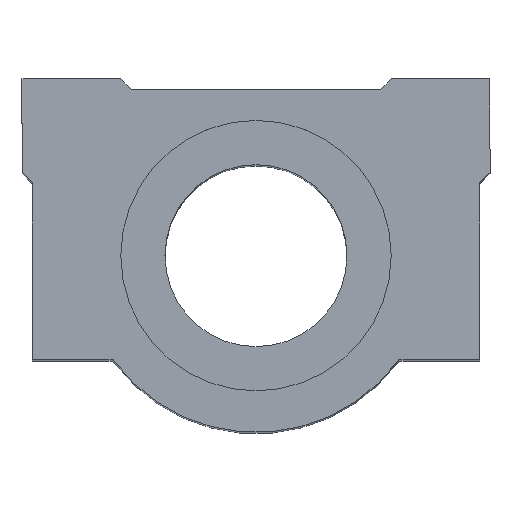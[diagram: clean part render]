
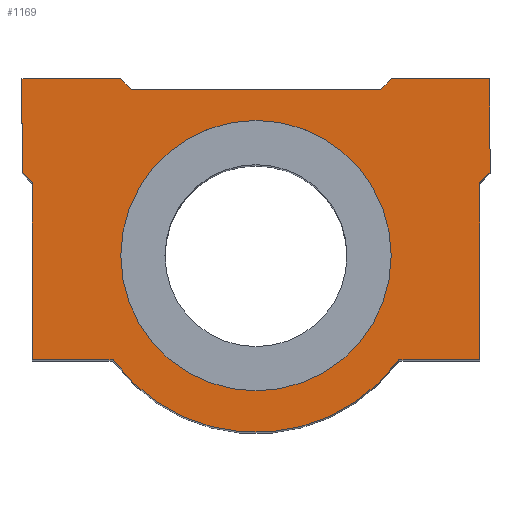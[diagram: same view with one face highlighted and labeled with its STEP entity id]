
A CAD part, top view. The second image highlights one B-rep face of the part: STEP entity #1169.
In plain terms, the highlighted planar face has unit normal (0, 0, 1).
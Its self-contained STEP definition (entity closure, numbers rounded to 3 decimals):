
#91=CARTESIAN_POINT('',(-26.709,4.198,153.0));
#92=VERTEX_POINT('',#91);
#101=CARTESIAN_POINT('',(25.291,4.198,153.0));
#102=VERTEX_POINT('',#101);
#103=CARTESIAN_POINT('',(-0.709,4.198,153.0));
#104=DIRECTION('',(0.0,0.0,-1.0));
#105=DIRECTION('',(-1.0,0.0,0.0));
#106=AXIS2_PLACEMENT_3D('',#103,#104,#105);
#107=CIRCLE('',#106,26.0);
#108=EDGE_CURVE('',#102,#92,#107,.T.);
#640=CARTESIAN_POINT('',(-0.709,4.198,153.0));
#641=DIRECTION('',(0.0,0.0,-1.0));
#642=DIRECTION('',(-1.0,0.0,0.0));
#643=AXIS2_PLACEMENT_3D('',#640,#641,#642);
#644=CIRCLE('',#643,26.0);
#645=EDGE_CURVE('',#92,#102,#644,.T.);
#780=CARTESIAN_POINT('',(44.291,20.198,153.0));
#781=VERTEX_POINT('',#780);
#782=CARTESIAN_POINT('',(42.291,18.198,153.0));
#783=VERTEX_POINT('',#782);
#784=CARTESIAN_POINT('',(44.291,20.198,153.0));
#785=DIRECTION('',(-0.707,-0.707,0.0));
#786=VECTOR('',#785,2.828);
#787=LINE('',#784,#786);
#788=EDGE_CURVE('',#781,#783,#787,.T.);
#811=CARTESIAN_POINT('',(42.291,-15.802,153.0));
#812=VERTEX_POINT('',#811);
#813=CARTESIAN_POINT('',(42.291,18.198,153.0));
#814=DIRECTION('',(0.0,-1.0,0.0));
#815=VECTOR('',#814,34.);
#816=LINE('',#813,#815);
#817=EDGE_CURVE('',#783,#812,#816,.T.);
#835=CARTESIAN_POINT('',(26.787,-15.802,153.0));
#836=VERTEX_POINT('',#835);
#837=CARTESIAN_POINT('',(42.291,-15.802,153.0));
#838=DIRECTION('',(-1.0,0.0,0.0));
#839=VECTOR('',#838,15.505);
#840=LINE('',#837,#839);
#841=EDGE_CURVE('',#812,#836,#840,.T.);
#867=CARTESIAN_POINT('',(-28.204,-15.802,153.0));
#868=VERTEX_POINT('',#867);
#869=CARTESIAN_POINT('',(-0.709,4.198,153.0));
#870=DIRECTION('',(0.0,0.0,-1.));
#871=DIRECTION('',(0.809,0.588,0.0));
#872=AXIS2_PLACEMENT_3D('',#869,#870,#871);
#873=CIRCLE('',#872,34.0);
#874=EDGE_CURVE('',#836,#868,#873,.T.);
#892=CARTESIAN_POINT('',(-43.709,-15.802,153.0));
#893=VERTEX_POINT('',#892);
#894=CARTESIAN_POINT('',(-28.204,-15.802,153.0));
#895=DIRECTION('',(-1.0,0.0,0.0));
#896=VECTOR('',#895,15.505);
#897=LINE('',#894,#896);
#898=EDGE_CURVE('',#868,#893,#897,.T.);
#924=CARTESIAN_POINT('',(-43.709,18.198,153.0));
#925=VERTEX_POINT('',#924);
#926=CARTESIAN_POINT('',(-43.709,-15.802,153.0));
#927=DIRECTION('',(0.0,1.0,0.0));
#928=VECTOR('',#927,34.);
#929=LINE('',#926,#928);
#930=EDGE_CURVE('',#893,#925,#929,.T.);
#948=CARTESIAN_POINT('',(-45.709,20.198,153.0));
#949=VERTEX_POINT('',#948);
#950=CARTESIAN_POINT('',(-43.709,18.198,153.0));
#951=DIRECTION('',(-0.707,0.707,0.0));
#952=VECTOR('',#951,2.828);
#953=LINE('',#950,#952);
#954=EDGE_CURVE('',#925,#949,#953,.T.);
#972=CARTESIAN_POINT('',(-45.709,38.198,153.0));
#973=VERTEX_POINT('',#972);
#974=CARTESIAN_POINT('',(-45.709,20.198,153.0));
#975=DIRECTION('',(0.0,1.0,0.0));
#976=VECTOR('',#975,18.);
#977=LINE('',#974,#976);
#978=EDGE_CURVE('',#949,#973,#977,.T.);
#996=CARTESIAN_POINT('',(-26.709,38.198,153.0));
#997=VERTEX_POINT('',#996);
#998=CARTESIAN_POINT('',(-45.709,38.198,153.0));
#999=DIRECTION('',(1.0,0.0,0.0));
#1000=VECTOR('',#999,19.);
#1001=LINE('',#998,#1000);
#1002=EDGE_CURVE('',#973,#997,#1001,.T.);
#1028=CARTESIAN_POINT('',(-24.709,36.198,153.0));
#1029=VERTEX_POINT('',#1028);
#1030=CARTESIAN_POINT('',(-26.709,38.198,153.0));
#1031=DIRECTION('',(0.707,-0.707,0.0));
#1032=VECTOR('',#1031,2.828);
#1033=LINE('',#1030,#1032);
#1034=EDGE_CURVE('',#997,#1029,#1033,.T.);
#1052=CARTESIAN_POINT('',(23.291,36.198,153.0));
#1053=VERTEX_POINT('',#1052);
#1054=CARTESIAN_POINT('',(-24.709,36.198,153.0));
#1055=DIRECTION('',(1.0,0.0,0.0));
#1056=VECTOR('',#1055,48.);
#1057=LINE('',#1054,#1056);
#1058=EDGE_CURVE('',#1029,#1053,#1057,.T.);
#1076=CARTESIAN_POINT('',(25.291,38.198,153.0));
#1077=VERTEX_POINT('',#1076);
#1078=CARTESIAN_POINT('',(23.291,36.198,153.0));
#1079=DIRECTION('',(0.707,0.707,0.0));
#1080=VECTOR('',#1079,2.828);
#1081=LINE('',#1078,#1080);
#1082=EDGE_CURVE('',#1053,#1077,#1081,.T.);
#1100=CARTESIAN_POINT('',(44.291,38.198,153.0));
#1101=VERTEX_POINT('',#1100);
#1102=CARTESIAN_POINT('',(25.291,38.198,153.0));
#1103=DIRECTION('',(1.0,0.0,0.0));
#1104=VECTOR('',#1103,19.0);
#1105=LINE('',#1102,#1104);
#1106=EDGE_CURVE('',#1077,#1101,#1105,.T.);
#1132=CARTESIAN_POINT('',(44.291,38.198,153.0));
#1133=DIRECTION('',(0.0,-1.0,0.0));
#1134=VECTOR('',#1133,18.0);
#1135=LINE('',#1132,#1134);
#1136=EDGE_CURVE('',#1101,#781,#1135,.T.);
#1144=CARTESIAN_POINT('',(-0.709,8.801,153.0));
#1145=DIRECTION('',(0.0,0.0,1.0));
#1146=DIRECTION('',(1.0,0.0,0.0));
#1147=AXIS2_PLACEMENT_3D('',#1144,#1145,#1146);
#1148=PLANE('',#1147);
#1149=ORIENTED_EDGE('',*,*,#788,.F.);
#1150=ORIENTED_EDGE('',*,*,#1136,.F.);
#1151=ORIENTED_EDGE('',*,*,#1106,.F.);
#1152=ORIENTED_EDGE('',*,*,#1082,.F.);
#1153=ORIENTED_EDGE('',*,*,#1058,.F.);
#1154=ORIENTED_EDGE('',*,*,#1034,.F.);
#1155=ORIENTED_EDGE('',*,*,#1002,.F.);
#1156=ORIENTED_EDGE('',*,*,#978,.F.);
#1157=ORIENTED_EDGE('',*,*,#954,.F.);
#1158=ORIENTED_EDGE('',*,*,#930,.F.);
#1159=ORIENTED_EDGE('',*,*,#898,.F.);
#1160=ORIENTED_EDGE('',*,*,#874,.F.);
#1161=ORIENTED_EDGE('',*,*,#841,.F.);
#1162=ORIENTED_EDGE('',*,*,#817,.F.);
#1163=EDGE_LOOP('',(#1149,#1150,#1151,#1152,#1153,#1154,#1155,#1156,#1157,#1158,#1159,#1160,#1161,#1162));
#1164=FACE_OUTER_BOUND('',#1163,.T.);
#1165=ORIENTED_EDGE('',*,*,#108,.T.);
#1166=ORIENTED_EDGE('',*,*,#645,.T.);
#1167=EDGE_LOOP('',(#1165,#1166));
#1168=FACE_BOUND('',#1167,.T.);
#1169=ADVANCED_FACE('',(#1164,#1168),#1148,.T.);
